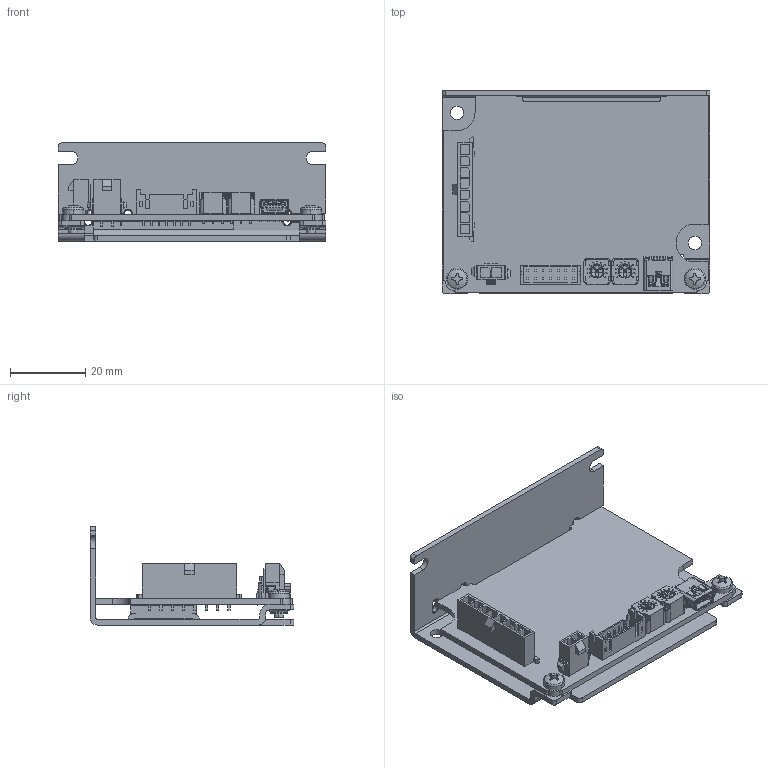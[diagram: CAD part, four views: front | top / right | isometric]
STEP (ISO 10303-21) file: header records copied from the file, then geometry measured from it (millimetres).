
FILE_DESCRIPTION (( 'STEP AP203' ), '1' );
FILE_NAME ('A1679.step', '2018-07-31T02:31:35', ( 'om' ), ( 'Hewlett-Packard Company' ), 'SwSTEP 2.0', 'SolidWorks 2017', '' );
FILE_SCHEMA (( 'CONFIG_CONTROL_DESIGN' ));
Length unit declared in the file: inch
Products named in the file (1): A1679
Bounding box: 71 x 54 x 26 mm (x, y, z)
Volume: 16729.1 mm3; surface area: 22663.3 mm2
Topology: 1 solids, 1 shells, 1414 faces, 3893 edges, 2548 vertices
Faces by surface type: plane 1070, cylinder 289, cone 23, bspline 18, torus 12, sphere 2
Entity records: 45563 total; most frequent: CARTESIAN_POINT 8938, ORIENTED_EDGE 7786, DIRECTION 7286, EDGE_CURVE 3893, VECTOR 3090, LINE 3090, VERTEX_POINT 2548, AXIS2_PLACEMENT_3D 2098
